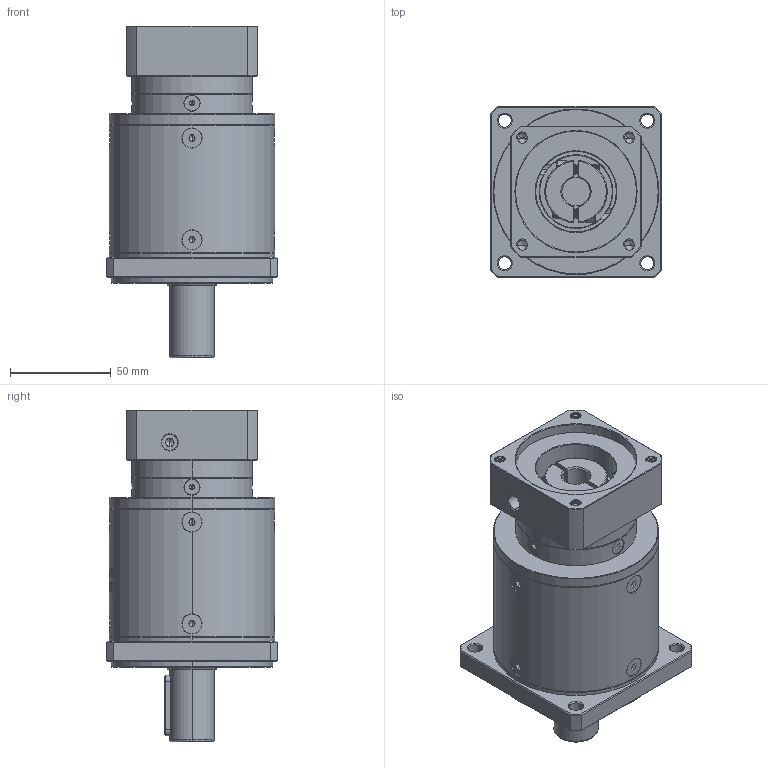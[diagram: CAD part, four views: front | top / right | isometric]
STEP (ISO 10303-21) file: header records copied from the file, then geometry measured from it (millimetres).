
FILE_DESCRIPTION (( 'STEP AP214' ), '1' );
FILE_NAME ('ZF080-D22-L3-P2-14-60-75-M6.step', '2023-08-19T06:57:43', ( '' ), ( '' ), 'SwSTEP 2.0', 'SolidWorks 2016', '' );
FILE_SCHEMA (( 'AUTOMOTIVE_DESIGN' ));
Length unit declared in the file: millimetre
Products named in the file (1): ZF080-D22-L3-P2-14-60-75-M6
Bounding box: 85 x 85 x 164.5 mm (x, y, z)
Volume: 586728.7 mm3; surface area: 75959.8 mm2
Topology: 18 solids, 18 shells, 2302 faces, 6056 edges, 3856 vertices
Faces by surface type: plane 1128, cylinder 411, bspline 394, cone 327, torus 42
Entity records: 122270 total; most frequent: CARTESIAN_POINT 45069, ORIENTED_EDGE 12036, DIRECTION 9061, EDGE_CURVE 6018, VERTEX_POINT 3856, LINE 3193, VECTOR 3193, AXIS2_PLACEMENT_3D 2934
